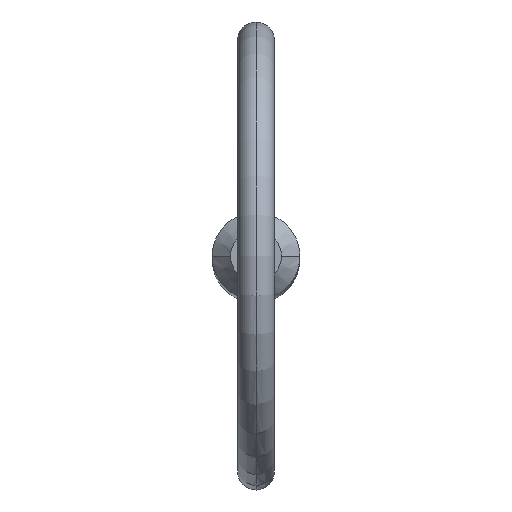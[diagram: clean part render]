
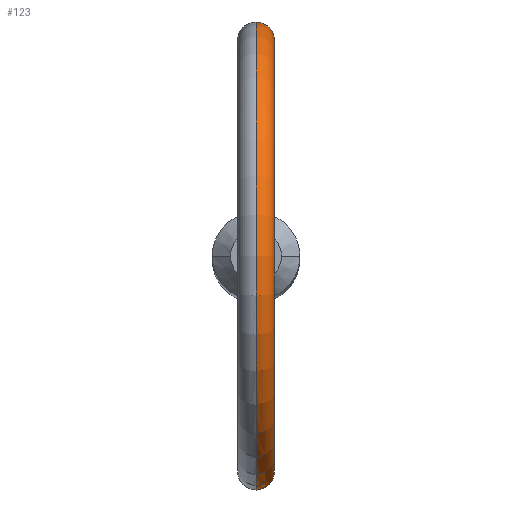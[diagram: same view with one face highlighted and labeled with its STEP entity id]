
A CAD part, top view. The second image highlights one B-rep face of the part: STEP entity #123.
In plain terms, the highlighted toroidal (fillet/blend) face has major radius 11.7 mm and minor radius 1 mm.
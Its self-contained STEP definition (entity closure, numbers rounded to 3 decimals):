
#6 = CARTESIAN_POINT ( 'NONE',  ( 0.996, -2.162, 82.664 ) ) ;
#12 = CARTESIAN_POINT ( 'NONE',  ( 0., 2.38, 83.568 ) ) ;
#14 = CARTESIAN_POINT ( 'NONE',  ( 0., 2.38, 81.525 ) ) ;
#21 = ORIENTED_EDGE ( 'NONE', *, *, #218, .F. ) ;
#56 = CARTESIAN_POINT ( 'NONE',  ( 0., -2.38, 83.568 ) ) ;
#69 = CARTESIAN_POINT ( 'NONE',  ( 0., 0., 94. ) ) ;
#70 = CIRCLE ( 'NONE', #256, 10.7 ) ;
#72 = CARTESIAN_POINT ( 'NONE',  ( 0.625, -2.299, 81.721 ) ) ;
#82 = DIRECTION ( 'NONE',  ( 1., 0., 0. ) ) ;
#87 = CARTESIAN_POINT ( 'NONE',  ( 0., 0., 94. ) ) ;
#92 = CARTESIAN_POINT ( 'NONE',  ( 0.884, 2.21, 82.017 ) ) ;
#105 = CARTESIAN_POINT ( 'NONE',  ( 1.003, -2.158, 82.399 ) ) ;
#110 = ORIENTED_EDGE ( 'NONE', *, *, #396, .F. ) ;
#114 = CARTESIAN_POINT ( 'NONE',  ( 0.134, 2.38, 83.568 ) ) ;
#123 = ADVANCED_FACE ( 'NONE', ( #169 ), #148, .T. ) ;
#126 = CARTESIAN_POINT ( 'NONE',  ( 0.966, 2.176, 82.797 ) ) ;
#133 = CARTESIAN_POINT ( 'NONE',  ( 0.981, -2.169, 82.264 ) ) ;
#139 = CARTESIAN_POINT ( 'NONE',  ( 0.811, -2.24, 81.906 ) ) ;
#142 = ORIENTED_EDGE ( 'NONE', *, *, #232, .F. ) ;
#143 = CARTESIAN_POINT ( 'NONE',  ( 0.865, -2.218, 83.04 ) ) ;
#148 = TOROIDAL_SURFACE ( 'NONE', #281, 11.7, 1. ) ;
#149 = CARTESIAN_POINT ( 'NONE',  ( 0., 0., 94. ) ) ;
#165 = CARTESIAN_POINT ( 'NONE',  ( 0.996, 2.162, 82.664 ) ) ;
#169 = FACE_OUTER_BOUND ( 'NONE', #415, .T. ) ;
#183 = CARTESIAN_POINT ( 'NONE',  ( 0., -2.38, 83.568 ) ) ;
#192 = B_SPLINE_CURVE_WITH_KNOTS ( 'NONE', 3,
 ( #183, #473, #295, #219, #324, #367, #143, #216, #6, #105, #133, #376, #139, #72, #403, #411, #439, #253 ),
 .UNSPECIFIED., .F., .F.,
 ( 4, 2, 2, 2, 2, 2, 2, 2, 4 ),
 ( 0.003, 0.003, 0.003, 0.004, 0.004, 0.005, 0.005, 0.005, 0.006 ),
 .UNSPECIFIED. ) ;
#201 = VERTEX_POINT ( 'NONE', #434 ) ;
#203 = CARTESIAN_POINT ( 'NONE',  ( 0.793, 2.246, 83.153 ) ) ;
#216 = CARTESIAN_POINT ( 'NONE',  ( 0.966, -2.176, 82.797 ) ) ;
#218 = EDGE_CURVE ( 'NONE', #247, #401, #70, .T. ) ;
#219 = CARTESIAN_POINT ( 'NONE',  ( 0.508, -2.328, 83.424 ) ) ;
#225 = DIRECTION ( 'NONE',  ( 0., 0., -1. ) ) ;
#232 = EDGE_CURVE ( 'NONE', #401, #201, #192, .T. ) ;
#241 = CARTESIAN_POINT ( 'NONE',  ( 0.513, 2.327, 81.649 ) ) ;
#247 = VERTEX_POINT ( 'NONE', #345 ) ;
#253 = CARTESIAN_POINT ( 'NONE',  ( 0., -2.38, 81.525 ) ) ;
#256 = AXIS2_PLACEMENT_3D ( 'NONE', #69, #369, #471 ) ;
#273 = B_SPLINE_CURVE_WITH_KNOTS ( 'NONE', 3,
 ( #14, #422, #426, #241, #465, #317, #92, #461, #356, #165, #126, #391, #203, #427, #344, #306, #114, #12 ),
 .UNSPECIFIED., .F., .F.,
 ( 4, 2, 2, 2, 2, 2, 2, 2, 4 ),
 ( 0.001, 0.001, 0.001, 0.002, 0.002, 0.003, 0.003, 0.003, 0.004 ),
 .UNSPECIFIED. ) ;
#281 = AXIS2_PLACEMENT_3D ( 'NONE', #149, #377, #225 ) ;
#291 = EDGE_CURVE ( 'NONE', #414, #201, #389, .T. ) ;
#295 = CARTESIAN_POINT ( 'NONE',  ( 0.268, -2.368, 83.537 ) ) ;
#306 = CARTESIAN_POINT ( 'NONE',  ( 0.267, 2.368, 83.537 ) ) ;
#317 = CARTESIAN_POINT ( 'NONE',  ( 0.811, 2.24, 81.906 ) ) ;
#324 = CARTESIAN_POINT ( 'NONE',  ( 0.615, -2.301, 83.344 ) ) ;
#344 = CARTESIAN_POINT ( 'NONE',  ( 0.509, 2.328, 83.424 ) ) ;
#345 = CARTESIAN_POINT ( 'NONE',  ( 0., 2.38, 83.568 ) ) ;
#356 = CARTESIAN_POINT ( 'NONE',  ( 1.003, 2.158, 82.397 ) ) ;
#367 = CARTESIAN_POINT ( 'NONE',  ( 0.793, -2.246, 83.152 ) ) ;
#369 = DIRECTION ( 'NONE',  ( 1., 0., 0. ) ) ;
#376 = CARTESIAN_POINT ( 'NONE',  ( 0.885, -2.21, 82.017 ) ) ;
#377 = DIRECTION ( 'NONE',  ( 1., 0., 0. ) ) ;
#384 = CARTESIAN_POINT ( 'NONE',  ( 0., 2.38, 81.525 ) ) ;
#389 = CIRCLE ( 'NONE', #462, 12.7 ) ;
#391 = CARTESIAN_POINT ( 'NONE',  ( 0.864, 2.218, 83.041 ) ) ;
#396 = EDGE_CURVE ( 'NONE', #414, #247, #273, .T. ) ;
#398 = ORIENTED_EDGE ( 'NONE', *, *, #291, .T. ) ;
#401 = VERTEX_POINT ( 'NONE', #56 ) ;
#403 = CARTESIAN_POINT ( 'NONE',  ( 0.513, -2.327, 81.648 ) ) ;
#411 = CARTESIAN_POINT ( 'NONE',  ( 0.268, -2.368, 81.551 ) ) ;
#414 = VERTEX_POINT ( 'NONE', #384 ) ;
#415 = EDGE_LOOP ( 'NONE', ( #110, #398, #142, #21 ) ) ;
#422 = CARTESIAN_POINT ( 'NONE',  ( 0.133, 2.38, 81.525 ) ) ;
#425 = DIRECTION ( 'NONE',  ( 0., 0., -1. ) ) ;
#426 = CARTESIAN_POINT ( 'NONE',  ( 0.267, 2.368, 81.55 ) ) ;
#427 = CARTESIAN_POINT ( 'NONE',  ( 0.614, 2.301, 83.345 ) ) ;
#434 = CARTESIAN_POINT ( 'NONE',  ( 0., -2.38, 81.525 ) ) ;
#439 = CARTESIAN_POINT ( 'NONE',  ( 0.133, -2.38, 81.525 ) ) ;
#461 = CARTESIAN_POINT ( 'NONE',  ( 0.981, 2.169, 82.262 ) ) ;
#462 = AXIS2_PLACEMENT_3D ( 'NONE', #87, #82, #425 ) ;
#465 = CARTESIAN_POINT ( 'NONE',  ( 0.625, 2.299, 81.721 ) ) ;
#471 = DIRECTION ( 'NONE',  ( 0., 0., -1. ) ) ;
#473 = CARTESIAN_POINT ( 'NONE',  ( 0.134, -2.38, 83.568 ) ) ;
